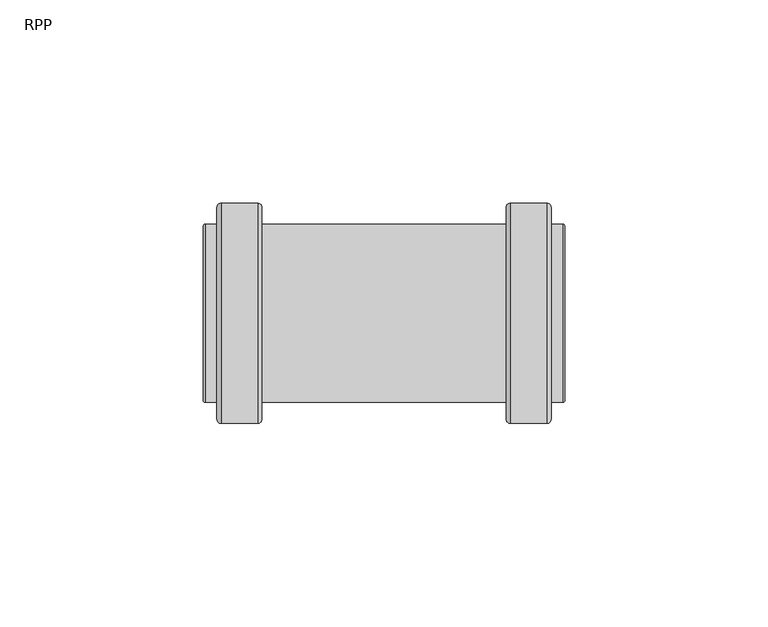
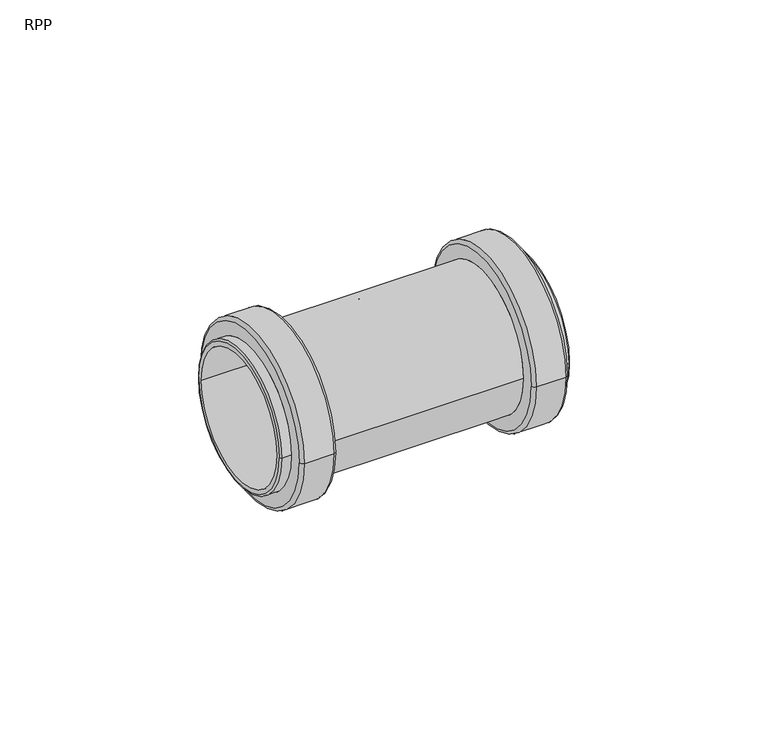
"""IFC4 building model written with IfcOpenShell, lengths in millimetres: pipe fitting geometry, RAUPIANO PLUS Double socket : RPP."""

from ifc_helpers import new_model, si_unit, point, frame, origin, place, context, project, spatial, polyline, circle_curve, ellipse_curve, trimmed, source, transform, mapped, element, save
from ifc_brep_helpers import plane_surface, cylinder_surface, revolved_surface, advanced_brep


def rpp_c877f22e(model_context):
    return source(origin(), model_context, "Body", "AdvancedBrep", [
        advanced_brep(
        [(-40.1, 27.1, 0.0), (-40.1, -27.1, 0.0), (-41.1, -26.1, 0.0), (-41.1, 26.1, 0.0), (-31.1, 27.1, 0.0), (-31.1, -27.1, 0.0), (-30.1, 26.1, 0.0), (-30.1, -26.1, 0.0), (30.1, 21.9, 0.0), (30.1, -21.9, 0.0), (-30.1, -21.9, 0.0), (-30.1, 21.9, 0.0), (31.1, 27.1, 0.0), (31.1, -27.1, 0.0), (30.1, -26.1, 0.0), (30.1, 26.1, 0.0), (40.1, 27.1, 0.0), (40.1, -27.1, 0.0), (41.1, 26.1, 0.0), (41.1, -26.1, 0.0), (44.0, 21.9, 0.0), (44.0, -21.9, 0.0), (41.1, -21.9, 0.0), (41.1, 21.9, 0.0), (44.5, 21.4, 0.0), (44.5, -21.4, 0.0), (1.0, 20.0, 0.0), (1.0, -20.0, 0.0), (44.5, -20.0, 0.0), (44.5, 20.0, 0.0), (-1.0, 17.69828, 0.0), (-1.0, -17.69828, 0.0), (1.0, -17.69828, 0.0), (1.0, 17.69828, 0.0), (-44.5, 20.0, 0.0), (-44.5, -20.0, 0.0), (-1.0, -20.0, 0.0), (-1.0, 20.0, 0.0), (-44.0, 21.9, 0.0), (-44.0, -21.9, 0.0), (-44.5, -21.4, 0.0), (-44.5, 21.4, 0.0), (-41.1, 21.9, 0.0), (-41.1, -21.9, 0.0)],
        [
            (0, 1, circle_curve(frame((-40.1, 0.0, 0.0), z_axis=(-1.0, 0.0, 0.0), x_axis=(0.0, -1.0, 0.0)), 27.1)),
            (1, 2, circle_curve(frame((-40.1, -26.1, 0.0), z_axis=(0.0, 0.0, -1.0), x_axis=(1.0, 0.0, 0.0)), 1.0)),
            (2, 3, circle_curve(frame((-41.1, 0.0, 0.0), z_axis=(1.0, 0.0, 0.0), x_axis=(0.0, -1.0, 0.0)), 26.1)),
            (3, 0, circle_curve(frame((-40.1, 26.1, 0.0), z_axis=(0.0, 0.0, -1.0), x_axis=(1.0, 0.0, 0.0)), 1.0)),
            (4, 5, circle_curve(frame((-31.1, 0.0, 0.0), z_axis=(-1.0, 0.0, 0.0), x_axis=(0.0, -1.0, 0.0)), 27.1)),
            (5, 1),
            (0, 4),
            (6, 7, circle_curve(frame((-30.1, 0.0, 0.0), z_axis=(-1.0, 0.0, 0.0), x_axis=(0.0, -1.0, 0.0)), 26.1)),
            (7, 5, circle_curve(frame((-31.1, -26.1, 0.0), z_axis=(0.0, 0.0, -1.0), x_axis=(1.0, 0.0, 0.0)), 1.0)),
            (4, 6, circle_curve(frame((-31.1, 26.1, 0.0), z_axis=(0.0, 0.0, -1.0), x_axis=(1.0, 0.0, 0.0)), 1.0)),
            (8, 9, circle_curve(frame((30.1, 0.0, 0.0), z_axis=(-1.0, 0.0, 0.0), x_axis=(0.0, -1.0, 0.0)), 21.9)),
            (9, 10),
            (10, 11, circle_curve(frame((-30.1, 0.0, 0.0), z_axis=(1.0, 0.0, 0.0), x_axis=(0.0, -1.0, 0.0)), 21.9)),
            (11, 8),
            (12, 13, circle_curve(frame((31.1, 0.0, 0.0), z_axis=(-1.0, 0.0, 0.0), x_axis=(0.0, -1.0, 0.0)), 27.1)),
            (13, 14, circle_curve(frame((31.1, -26.1, 0.0), z_axis=(0.0, 0.0, -1.0), x_axis=(1.0, 0.0, 0.0)), 1.0)),
            (14, 15, circle_curve(frame((30.1, 0.0, 0.0), z_axis=(1.0, 0.0, 0.0), x_axis=(0.0, -1.0, 0.0)), 26.1)),
            (15, 12, circle_curve(frame((31.1, 26.1, 0.0), z_axis=(0.0, 0.0, -1.0), x_axis=(1.0, 0.0, 0.0)), 1.0)),
            (16, 17, circle_curve(frame((40.1, 0.0, 0.0), z_axis=(-1.0, 0.0, 0.0), x_axis=(0.0, -1.0, 0.0)), 27.1)),
            (17, 13),
            (12, 16),
            (18, 19, circle_curve(frame((41.1, 0.0, 0.0), z_axis=(-1.0, 0.0, 0.0), x_axis=(0.0, -1.0, 0.0)), 26.1)),
            (19, 17, circle_curve(frame((40.1, -26.1, 0.0), z_axis=(0.0, 0.0, -1.0), x_axis=(1.0, 0.0, 0.0)), 1.0)),
            (16, 18, circle_curve(frame((40.1, 26.1, 0.0), z_axis=(0.0, 0.0, -1.0), x_axis=(1.0, 0.0, 0.0)), 1.0)),
            (20, 21, circle_curve(frame((44.0, 0.0, 0.0), z_axis=(-1.0, 0.0, 0.0), x_axis=(0.0, -1.0, 0.0)), 21.9)),
            (21, 22),
            (22, 23, circle_curve(frame((41.1, 0.0, 0.0), z_axis=(1.0, 0.0, 0.0), x_axis=(0.0, -1.0, 0.0)), 21.9)),
            (23, 20),
            (24, 25, circle_curve(frame((44.5, 0.0, 0.0), z_axis=(-1.0, 0.0, 0.0), x_axis=(0.0, -1.0, 0.0)), 21.4)),
            (25, 21, circle_curve(frame((44.0, -21.4, 0.0), z_axis=(0.0, 0.0, -1.0), x_axis=(1.0, 0.0, 0.0)), 0.5)),
            (20, 24, circle_curve(frame((44.0, 21.4, 0.0), z_axis=(0.0, 0.0, -1.0), x_axis=(1.0, 0.0, 0.0)), 0.5)),
            (26, 27, circle_curve(frame((1.0, 0.0, 0.0), z_axis=(-1.0, 0.0, 0.0), x_axis=(0.0, -1.0, 0.0)), 20.0)),
            (27, 28),
            (28, 29, circle_curve(frame((44.5, 0.0, 0.0), z_axis=(1.0, 0.0, 0.0), x_axis=(0.0, -1.0, 0.0)), 20.0)),
            (29, 26),
            (30, 31, circle_curve(frame((-1.0, 0.0, 0.0), z_axis=(-1.0, 0.0, 0.0), x_axis=(0.0, -1.0, 0.0)), 17.69828)),
            (31, 32),
            (32, 33, circle_curve(frame((1.0, 0.0, 0.0), z_axis=(1.0, 0.0, 0.0), x_axis=(0.0, -1.0, 0.0)), 17.69828)),
            (33, 30),
            (34, 35, circle_curve(frame((-44.5, 0.0, 0.0), z_axis=(-1.0, 0.0, 0.0), x_axis=(0.0, -1.0, 0.0)), 20.0)),
            (35, 36),
            (36, 37, circle_curve(frame((-1.0, 0.0, 0.0), z_axis=(1.0, 0.0, 0.0), x_axis=(0.0, -1.0, 0.0)), 20.0)),
            (37, 34),
            (38, 39, circle_curve(frame((-44.0, 0.0, 0.0), z_axis=(-1.0, 0.0, 0.0), x_axis=(0.0, -1.0, 0.0)), 21.9)),
            (39, 40, circle_curve(frame((-44.0, -21.4, 0.0), z_axis=(0.0, 0.0, -1.0), x_axis=(1.0, 0.0, 0.0)), 0.5)),
            (40, 41, circle_curve(frame((-44.5, 0.0, 0.0), z_axis=(1.0, 0.0, 0.0), x_axis=(0.0, -1.0, 0.0)), 21.4)),
            (41, 38, circle_curve(frame((-44.0, 21.4, 0.0), z_axis=(0.0, 0.0, -1.0), x_axis=(1.0, 0.0, 0.0)), 0.5)),
            (42, 43, circle_curve(frame((-41.1, 0.0, 0.0), z_axis=(-1.0, 0.0, 0.0), x_axis=(0.0, -1.0, 0.0)), 21.9)),
            (43, 39),
            (38, 42),
            (2, 3, circle_curve(frame((-41.1, 0.0, 0.0), z_axis=(-1.0, 0.0, 0.0), x_axis=(0.0, 1.0, 0.0)), 26.1)),
            (42, 43, circle_curve(frame((-41.1, 0.0, 0.0), z_axis=(1.0, 0.0, 0.0), x_axis=(0.0, 1.0, 0.0)), 21.9)),
            (1, 0, circle_curve(frame((-40.1, 0.0, 0.0), z_axis=(-1.0, 0.0, 0.0), x_axis=(0.0, 1.0, 0.0)), 27.1)),
            (5, 4, circle_curve(frame((-31.1, 0.0, 0.0), z_axis=(-1.0, 0.0, 0.0), x_axis=(0.0, 1.0, 0.0)), 27.1)),
            (7, 6, circle_curve(frame((-30.1, 0.0, 0.0), z_axis=(-1.0, 0.0, 0.0), x_axis=(0.0, 1.0, 0.0)), 26.1)),
            (10, 11, circle_curve(frame((-30.1, 0.0, 0.0), z_axis=(-1.0, 0.0, 0.0), x_axis=(0.0, 1.0, 0.0)), 21.9)),
            (9, 8, circle_curve(frame((30.1, 0.0, 0.0), z_axis=(-1.0, 0.0, 0.0), x_axis=(0.0, 1.0, 0.0)), 21.9)),
            (14, 15, circle_curve(frame((30.1, 0.0, 0.0), z_axis=(-1.0, 0.0, 0.0), x_axis=(0.0, 1.0, 0.0)), 26.1)),
            (13, 12, circle_curve(frame((31.1, 0.0, 0.0), z_axis=(-1.0, 0.0, 0.0), x_axis=(0.0, 1.0, 0.0)), 27.1)),
            (17, 16, circle_curve(frame((40.1, 0.0, 0.0), z_axis=(-1.0, 0.0, 0.0), x_axis=(0.0, 1.0, 0.0)), 27.1)),
            (19, 18, circle_curve(frame((41.1, 0.0, 0.0), z_axis=(-1.0, 0.0, 0.0), x_axis=(0.0, 1.0, 0.0)), 26.1)),
            (22, 23, circle_curve(frame((41.1, 0.0, 0.0), z_axis=(-1.0, 0.0, 0.0), x_axis=(0.0, 1.0, 0.0)), 21.9)),
            (21, 20, circle_curve(frame((44.0, 0.0, 0.0), z_axis=(-1.0, 0.0, 0.0), x_axis=(0.0, 1.0, 0.0)), 21.9)),
            (25, 24, circle_curve(frame((44.5, 0.0, 0.0), z_axis=(-1.0, 0.0, 0.0), x_axis=(0.0, 1.0, 0.0)), 21.4)),
            (28, 29, circle_curve(frame((44.5, 0.0, 0.0), z_axis=(-1.0, 0.0, 0.0), x_axis=(0.0, 1.0, 0.0)), 20.0)),
            (27, 26, circle_curve(frame((1.0, 0.0, 0.0), z_axis=(-1.0, 0.0, 0.0), x_axis=(0.0, 1.0, 0.0)), 20.0)),
            (32, 33, circle_curve(frame((1.0, 0.0, 0.0), z_axis=(-1.0, 0.0, 0.0), x_axis=(0.0, 1.0, 0.0)), 17.69828)),
            (31, 30, circle_curve(frame((-1.0, 0.0, 0.0), z_axis=(-1.0, 0.0, 0.0), x_axis=(0.0, 1.0, 0.0)), 17.69828)),
            (36, 37, circle_curve(frame((-1.0, 0.0, 0.0), z_axis=(-1.0, 0.0, 0.0), x_axis=(0.0, 1.0, 0.0)), 20.0)),
            (35, 34, circle_curve(frame((-44.5, 0.0, 0.0), z_axis=(-1.0, 0.0, 0.0), x_axis=(0.0, 1.0, 0.0)), 20.0)),
            (40, 41, circle_curve(frame((-44.5, 0.0, 0.0), z_axis=(-1.0, 0.0, 0.0), x_axis=(0.0, 1.0, 0.0)), 21.4)),
            (39, 38, circle_curve(frame((-44.0, 0.0, 0.0), z_axis=(-1.0, 0.0, 0.0), x_axis=(0.0, 1.0, 0.0)), 21.9)),
        ],
        [
            revolved_surface(trimmed(ellipse_curve(frame((-40.1, -26.1, 0.0), z_axis=(0.0, 0.0, 1.0), x_axis=(1.0, 0.0, 0.0)), 1.0, 1.0), [point((-41.1, -26.1, 0.0))], [point((-40.1, -27.1, 0.0))], True, "CARTESIAN"), (0.0, 0.0, 0.0), (1.0, 0.0, 0.0)),
            cylinder_surface(frame((0.0, 0.0, 0.0), z_axis=(1.0, 0.0, 0.0), x_axis=(0.0, -1.0, 0.0)), 27.1),
            revolved_surface(trimmed(ellipse_curve(frame((-31.1, -26.1, 0.0), z_axis=(0.0, 0.0, 1.0), x_axis=(1.0, 0.0, 0.0)), 1.0, 1.0), [point((-31.1, -27.1, 0.0))], [point((-30.1, -26.1, 0.0))], True, "CARTESIAN"), (0.0, 0.0, 0.0), (1.0, 0.0, 0.0)),
            cylinder_surface(frame((0.0, 0.0, 0.0), z_axis=(1.0, 0.0, 0.0), x_axis=(0.0, -1.0, 0.0)), 21.9),
            revolved_surface(trimmed(ellipse_curve(frame((31.1, -26.1, 0.0), z_axis=(0.0, 0.0, 1.0), x_axis=(1.0, 0.0, 0.0)), 1.0, 1.0), [point((30.1, -26.1, 0.0))], [point((31.1, -27.1, 0.0))], True, "CARTESIAN"), (0.0, 0.0, 0.0), (1.0, 0.0, 0.0)),
            revolved_surface(trimmed(ellipse_curve(frame((40.1, -26.1, 0.0), z_axis=(0.0, 0.0, 1.0), x_axis=(1.0, 0.0, 0.0)), 1.0, 1.0), [point((40.1, -27.1, 0.0))], [point((41.1, -26.1, 0.0))], True, "CARTESIAN"), (0.0, 0.0, 0.0), (1.0, 0.0, 0.0)),
            revolved_surface(trimmed(ellipse_curve(frame((44.0, -21.4, 0.0), z_axis=(0.0, 0.0, 1.0), x_axis=(1.0, 0.0, 0.0)), 0.5, 0.5), [point((44.0, -21.9, 0.0))], [point((44.5, -21.4, 0.0))], True, "CARTESIAN"), (0.0, 0.0, 0.0), (1.0, 0.0, 0.0)),
            revolved_surface(polyline([(44.5, -20.0, 0.0), (1.0, -20.0, 0.0)]), (0.0, 0.0, 0.0), (1.0, 0.0, 0.0)),
            revolved_surface(polyline([(1.0, -17.69828, 0.0), (-1.0, -17.69828, 0.0)]), (0.0, 0.0, 0.0), (1.0, 0.0, 0.0)),
            revolved_surface(polyline([(-1.0, -20.0, 0.0), (-44.5, -20.0, 0.0)]), (0.0, 0.0, 0.0), (1.0, 0.0, 0.0)),
            revolved_surface(trimmed(ellipse_curve(frame((-44.0, -21.4, 0.0), z_axis=(0.0, 0.0, 1.0), x_axis=(1.0, 0.0, 0.0)), 0.5, 0.5), [point((-44.5, -21.4, 0.0))], [point((-44.0, -21.9, 0.0))], True, "CARTESIAN"), (0.0, 0.0, 0.0), (1.0, 0.0, 0.0)),
            plane_surface(frame((-41.1, 0.0, 0.0), z_axis=(-1.0, 0.0, 0.0), x_axis=(0.0, 1.0, 0.0))),
            revolved_surface(trimmed(ellipse_curve(frame((-40.1, 26.1, 0.0), z_axis=(0.0, 0.0, -1.0), x_axis=(1.0, 0.0, 0.0)), 1.0, 1.0), [point((-41.1, 26.1, 0.0))], [point((-40.1, 27.1, 0.0))], True, "CARTESIAN"), (0.0, 0.0, 0.0), (1.0, 0.0, 0.0)),
            cylinder_surface(frame((0.0, 0.0, 0.0), z_axis=(1.0, 0.0, 0.0), x_axis=(0.0, 1.0, 0.0)), 27.1),
            revolved_surface(trimmed(ellipse_curve(frame((-31.1, 26.1, 0.0), z_axis=(0.0, 0.0, -1.0), x_axis=(1.0, 0.0, 0.0)), 1.0, 1.0), [point((-31.1, 27.1, 0.0))], [point((-30.1, 26.1, 0.0))], True, "CARTESIAN"), (0.0, 0.0, 0.0), (1.0, 0.0, 0.0)),
            plane_surface(frame((-30.1, 0.0, 0.0), z_axis=(1.0, 0.0, 0.0), x_axis=(0.0, 1.0, 0.0))),
            cylinder_surface(frame((0.0, 0.0, 0.0), z_axis=(1.0, 0.0, 0.0), x_axis=(0.0, 1.0, 0.0)), 21.9),
            plane_surface(frame((30.1, 0.0, 0.0), z_axis=(-1.0, 0.0, 0.0), x_axis=(0.0, 1.0, 0.0))),
            revolved_surface(trimmed(ellipse_curve(frame((31.1, 26.1, 0.0), z_axis=(0.0, 0.0, -1.0), x_axis=(1.0, 0.0, 0.0)), 1.0, 1.0), [point((30.1, 26.1, 0.0))], [point((31.1, 27.1, 0.0))], True, "CARTESIAN"), (0.0, 0.0, 0.0), (1.0, 0.0, 0.0)),
            revolved_surface(trimmed(ellipse_curve(frame((40.1, 26.1, 0.0), z_axis=(0.0, 0.0, -1.0), x_axis=(1.0, 0.0, 0.0)), 1.0, 1.0), [point((40.1, 27.1, 0.0))], [point((41.1, 26.1, 0.0))], True, "CARTESIAN"), (0.0, 0.0, 0.0), (1.0, 0.0, 0.0)),
            plane_surface(frame((41.1, 0.0, 0.0), z_axis=(1.0, 0.0, 0.0), x_axis=(0.0, 1.0, 0.0))),
            revolved_surface(trimmed(ellipse_curve(frame((44.0, 21.4, 0.0), z_axis=(0.0, 0.0, -1.0), x_axis=(1.0, 0.0, 0.0)), 0.5, 0.5), [point((44.0, 21.9, 0.0))], [point((44.5, 21.4, 0.0))], True, "CARTESIAN"), (0.0, 0.0, 0.0), (1.0, 0.0, 0.0)),
            plane_surface(frame((44.5, 0.0, 0.0), z_axis=(1.0, 0.0, 0.0), x_axis=(0.0, 1.0, 0.0))),
            revolved_surface(polyline([(44.5, 20.0, 0.0), (1.0, 20.0, 0.0)]), (0.0, 0.0, 0.0), (1.0, 0.0, 0.0)),
            plane_surface(frame((1.0, 0.0, 0.0), z_axis=(1.0, 0.0, 0.0), x_axis=(0.0, 1.0, 0.0))),
            revolved_surface(polyline([(1.0, 17.69828, 0.0), (-1.0, 17.69828, 0.0)]), (0.0, 0.0, 0.0), (1.0, 0.0, 0.0)),
            plane_surface(frame((-1.0, 0.0, 0.0), z_axis=(-1.0, 0.0, 0.0), x_axis=(0.0, 1.0, 0.0))),
            revolved_surface(polyline([(-1.0, 20.0, 0.0), (-44.5, 20.0, 0.0)]), (0.0, 0.0, 0.0), (1.0, 0.0, 0.0)),
            plane_surface(frame((-44.5, 0.0, 0.0), z_axis=(-1.0, 0.0, 0.0), x_axis=(0.0, 1.0, 0.0))),
            revolved_surface(trimmed(ellipse_curve(frame((-44.0, 21.4, 0.0), z_axis=(0.0, 0.0, -1.0), x_axis=(1.0, 0.0, 0.0)), 0.5, 0.5), [point((-44.5, 21.4, 0.0))], [point((-44.0, 21.9, 0.0))], True, "CARTESIAN"), (0.0, 0.0, 0.0), (1.0, 0.0, 0.0)),
        ],
        [
            (0, [[1, 2, 3, 4]]),
            (1, [[5, 6, -1, 7]]),
            (2, [[8, 9, -5, 10]]),
            (3, [[11, 12, 13, 14]]),
            (4, [[15, 16, 17, 18]]),
            (1, [[19, 20, -15, 21]]),
            (5, [[22, 23, -19, 24]]),
            (3, [[25, 26, 27, 28]]),
            (6, [[29, 30, -25, 31]]),
            (7, [[32, 33, 34, 35]]),
            (8, [[36, 37, 38, 39]]),
            (9, [[40, 41, 42, 43]]),
            (10, [[44, 45, 46, 47]]),
            (3, [[48, 49, -44, 50]]),
            (11, [[51, -3], [52, -48]]),
            (12, [[53, -4, -51, -2]]),
            (13, [[54, -7, -53, -6]]),
            (14, [[55, -10, -54, -9]]),
            (15, [[-55, -8], [56, -13]]),
            (16, [[57, -14, -56, -12]]),
            (17, [[58, -17], [-57, -11]]),
            (18, [[59, -18, -58, -16]]),
            (13, [[60, -21, -59, -20]]),
            (19, [[61, -24, -60, -23]]),
            (20, [[-61, -22], [62, -27]]),
            (16, [[63, -28, -62, -26]]),
            (21, [[64, -31, -63, -30]]),
            (22, [[-64, -29], [65, -34]]),
            (23, [[66, -35, -65, -33]]),
            (24, [[-66, -32], [67, -38]]),
            (25, [[68, -39, -67, -37]]),
            (26, [[69, -42], [-68, -36]]),
            (27, [[70, -43, -69, -41]]),
            (28, [[71, -46], [-70, -40]]),
            (29, [[72, -47, -71, -45]]),
            (16, [[-52, -50, -72, -49]]),
        ],
    ),
    ])


if __name__ == "__main__":
    model = new_model("IFC4")
    model_context = context("Model", 3, world=origin())
    ifc_project = project(units=[si_unit("LENGTHUNIT", "METRE", prefix="MILLI")], contexts=[model_context])
    site = spatial("IfcSite", under=ifc_project)
    building = spatial("IfcBuilding", under=site)
    placement = place(None, origin())
    rpp_shape = rpp_c877f22e(model_context)
    element("IfcPipeFitting", 1, ObjectType="RAUPIANO PLUS Double socket : RPP", at=placement, inside=building, context=model_context, shape_type="MappedRepresentation", body=[
        mapped(rpp_shape, transform((0.0, 0.0, 0.0), x_axis=(1.0, 0.0, 0.0), y_axis=(0.0, 1.0, 0.0), z_axis=(0.0, 0.0, 1.0))),
    ])
    save(model, "model.ifc")
